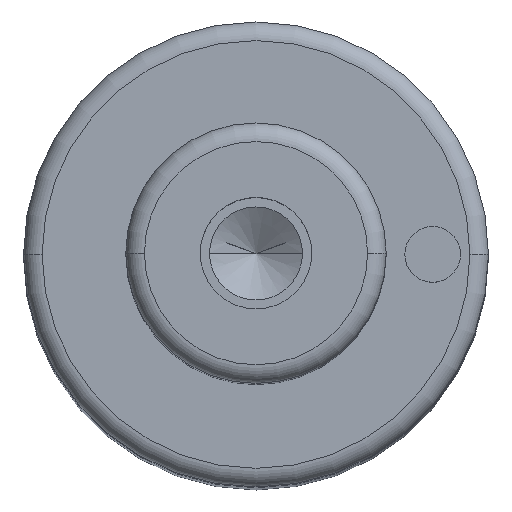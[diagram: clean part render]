
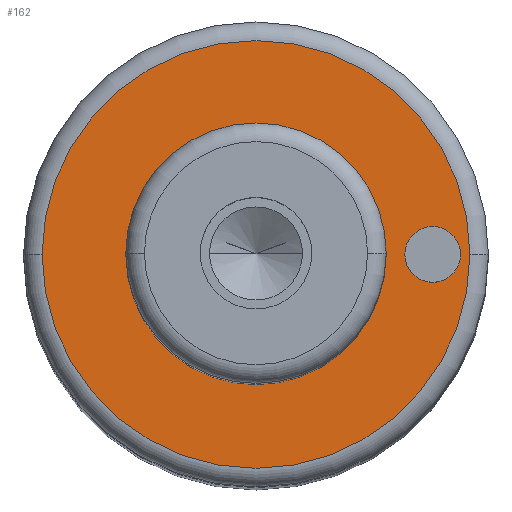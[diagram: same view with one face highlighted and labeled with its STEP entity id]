
A CAD part, top view. The second image highlights one B-rep face of the part: STEP entity #162.
In plain terms, the highlighted planar face has unit normal (0, 0, 1).
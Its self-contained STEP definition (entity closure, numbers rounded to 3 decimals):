
#105=PLANE('',#660);
#113=FACE_BOUND('',#237,.T.);
#114=FACE_BOUND('',#238,.T.);
#115=FACE_BOUND('',#239,.T.);
#162=ADVANCED_FACE('',(#113,#114,#115),#105,.T.);
#237=EDGE_LOOP('',(#393,#394));
#238=EDGE_LOOP('',(#395,#396));
#239=EDGE_LOOP('',(#397,#398));
#269=CIRCLE('',#628,7.);
#270=CIRCLE('',#630,7.);
#274=CIRCLE('',#635,11.5);
#275=CIRCLE('',#637,11.5);
#287=CIRCLE('',#658,1.5);
#288=CIRCLE('',#659,1.5);
#393=ORIENTED_EDGE('',*,*,#512,.F.);
#394=ORIENTED_EDGE('',*,*,#513,.F.);
#395=ORIENTED_EDGE('',*,*,#531,.F.);
#396=ORIENTED_EDGE('',*,*,#532,.F.);
#397=ORIENTED_EDGE('',*,*,#508,.T.);
#398=ORIENTED_EDGE('',*,*,#506,.T.);
#454=VERTEX_POINT('',#925);
#455=VERTEX_POINT('',#927);
#456=VERTEX_POINT('',#933);
#459=VERTEX_POINT('',#938);
#468=VERTEX_POINT('',#977);
#469=VERTEX_POINT('',#978);
#506=EDGE_CURVE('',#455,#454,#269,.T.);
#508=EDGE_CURVE('',#454,#455,#270,.T.);
#512=EDGE_CURVE('',#459,#456,#274,.T.);
#513=EDGE_CURVE('',#456,#459,#275,.T.);
#531=EDGE_CURVE('',#468,#469,#287,.T.);
#532=EDGE_CURVE('',#469,#468,#288,.T.);
#628=AXIS2_PLACEMENT_3D('',#926,#749,#750);
#630=AXIS2_PLACEMENT_3D('',#930,#754,#755);
#635=AXIS2_PLACEMENT_3D('',#939,#764,#765);
#637=AXIS2_PLACEMENT_3D('',#941,#768,#769);
#658=AXIS2_PLACEMENT_3D('',#976,#816,#817);
#659=AXIS2_PLACEMENT_3D('',#979,#818,#819);
#660=AXIS2_PLACEMENT_3D('',#980,#820,#821);
#749=DIRECTION('',(0.,0.,-1.));
#750=DIRECTION('',(0.,1.,0.));
#754=DIRECTION('',(0.,0.,-1.));
#755=DIRECTION('',(0.,-1.,0.));
#764=DIRECTION('',(0.,0.,-1.));
#765=DIRECTION('',(0.,1.,0.));
#768=DIRECTION('',(0.,0.,-1.));
#769=DIRECTION('',(0.,-1.,0.));
#816=DIRECTION('',(0.,0.,1.));
#817=DIRECTION('',(0.,1.,0.));
#818=DIRECTION('',(0.,0.,1.));
#819=DIRECTION('',(0.,-1.,0.));
#820=DIRECTION('',(0.,0.,1.));
#821=DIRECTION('',(0.,-1.,0.));
#925=CARTESIAN_POINT('',(-7.,0.,95.));
#926=CARTESIAN_POINT('',(0.,0.,95.));
#927=CARTESIAN_POINT('',(7.,0.,95.));
#930=CARTESIAN_POINT('',(0.,0.,95.));
#933=CARTESIAN_POINT('',(-11.5,0.,95.));
#938=CARTESIAN_POINT('',(11.5,0.,95.));
#939=CARTESIAN_POINT('',(0.,0.,95.));
#941=CARTESIAN_POINT('',(0.,0.,95.));
#976=CARTESIAN_POINT('',(9.5,0.,95.));
#977=CARTESIAN_POINT('',(8.,0.,95.));
#978=CARTESIAN_POINT('',(11.,0.,95.));
#979=CARTESIAN_POINT('',(9.5,0.,95.));
#980=CARTESIAN_POINT('',(0.,0.,95.));
